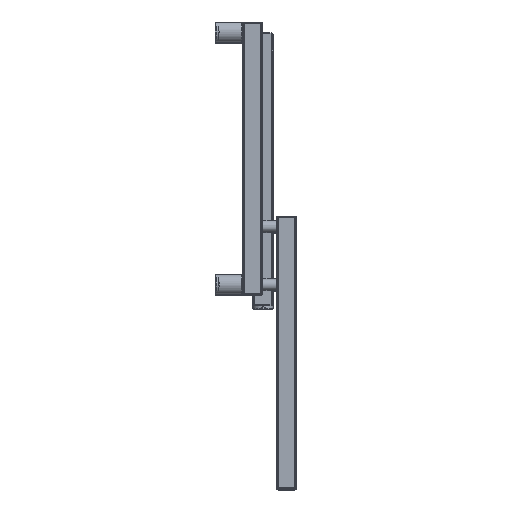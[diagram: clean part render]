
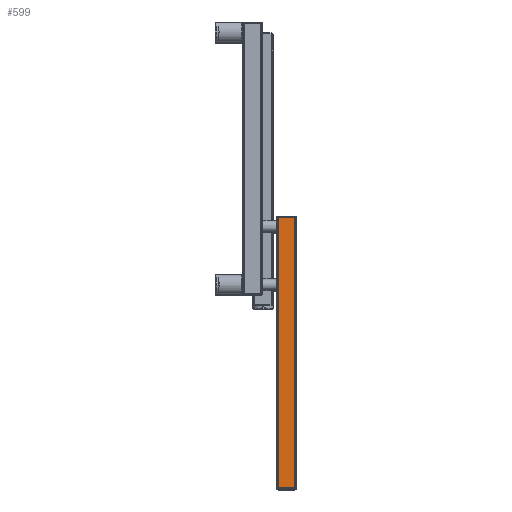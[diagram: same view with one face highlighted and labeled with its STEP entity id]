
A CAD part, top view. The second image highlights one B-rep face of the part: STEP entity #599.
In plain terms, the highlighted planar face has unit normal (0, 0, 1) as drawn and (0, -1, 0) by its records, which use the part's own axes.
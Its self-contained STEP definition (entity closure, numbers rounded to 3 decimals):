
#599 = ADVANCED_FACE( '', ( #1203 ), #1204, .T. );
#1203 = FACE_OUTER_BOUND( '', #1852, .T. );
#1204 = PLANE( '', #1853 );
#1852 = EDGE_LOOP( '', ( #3246, #3247, #3248, #3249 ) );
#1853 = AXIS2_PLACEMENT_3D( '', #3250, #3251, #3252 );
#3246 = ORIENTED_EDGE( '', *, *, #3859, .T. );
#3247 = ORIENTED_EDGE( '', *, *, #3699, .T. );
#3248 = ORIENTED_EDGE( '', *, *, #3724, .F. );
#3249 = ORIENTED_EDGE( '', *, *, #3632, .T. );
#3250 = CARTESIAN_POINT( '', ( 15., -15., 400. ) );
#3251 = DIRECTION( '', ( 0., -1., 0. ) );
#3252 = DIRECTION( '', ( 1., 0., 0. ) );
#3632 = EDGE_CURVE( '', #4338, #4339, #4340, .F. );
#3699 = EDGE_CURVE( '', #4439, #4437, #4440, .T. );
#3724 = EDGE_CURVE( '', #4338, #4437, #4473, .T. );
#3859 = EDGE_CURVE( '', #4339, #4439, #4644, .T. );
#4338 = VERTEX_POINT( '', #5342 );
#4339 = VERTEX_POINT( '', #5343 );
#4340 = LINE( '', #5344, #5345 );
#4437 = VERTEX_POINT( '', #5469 );
#4439 = VERTEX_POINT( '', #5471 );
#4440 = LINE( '', #5472, #5473 );
#4473 = LINE( '', #5515, #5516 );
#4644 = LINE( '', #5826, #5827 );
#5342 = CARTESIAN_POINT( '', ( 12., -15., 0. ) );
#5343 = CARTESIAN_POINT( '', ( 12., -15., 400. ) );
#5344 = CARTESIAN_POINT( '', ( 12., -15., 400. ) );
#5345 = VECTOR( '', #6242, 1000. );
#5469 = CARTESIAN_POINT( '', ( -12., -15., 0. ) );
#5471 = CARTESIAN_POINT( '', ( -12., -15., 400. ) );
#5472 = CARTESIAN_POINT( '', ( -12., -15., 400. ) );
#5473 = VECTOR( '', #6333, 1000. );
#5515 = CARTESIAN_POINT( '', ( 15., -15., 0. ) );
#5516 = VECTOR( '', #6361, 1000. );
#5826 = CARTESIAN_POINT( '', ( 15., -15., 400. ) );
#5827 = VECTOR( '', #6519, 1000. );
#6242 = DIRECTION( '', ( 0., 0., -1. ) );
#6333 = DIRECTION( '', ( 0., 0., -1. ) );
#6361 = DIRECTION( '', ( -1., 0., 0. ) );
#6519 = DIRECTION( '', ( -1., 0., 0. ) );
